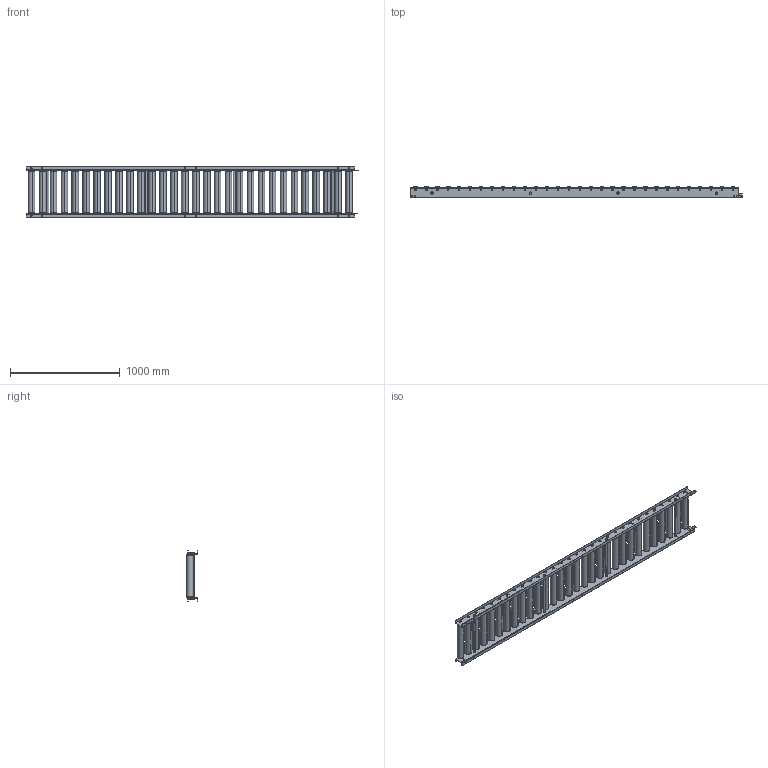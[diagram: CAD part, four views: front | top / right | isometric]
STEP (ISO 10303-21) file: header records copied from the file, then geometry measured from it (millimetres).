
FILE_DESCRIPTION (( 'STEP AP203' ), '1' );
FILE_NAME ('S-6038N.step', '2024-03-07T09:13:36', ( '' ), ( '' ), 'SwSTEP 2.0', 'SolidWorks 2023', '' );
FILE_SCHEMA (( 'CONFIG_CONTROL_DESIGN' ));
Length unit declared in the file: millimetre
Products named in the file (1): S-6038N
Bounding box: 3031.5 x 101.75 x 460 mm (x, y, z)
Volume: 35148071.8 mm3; surface area: 6025117.7 mm2
Topology: 84 solids, 84 shells, 1430 faces, 3382 edges, 2188 vertices
Faces by surface type: plane 652, cylinder 610, torus 120, cone 48
Entity records: 42641 total; most frequent: DIRECTION 7864, CARTESIAN_POINT 7673, ORIENTED_EDGE 6764, EDGE_CURVE 3382, AXIS2_PLACEMENT_3D 3179, VERTEX_POINT 2188, EDGE_LOOP 1814, CIRCLE 1748
